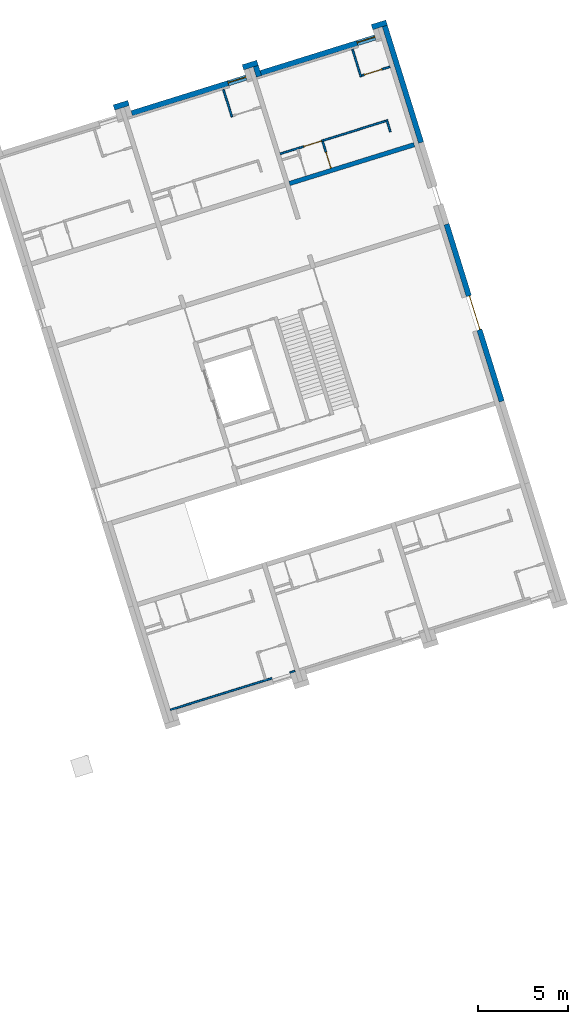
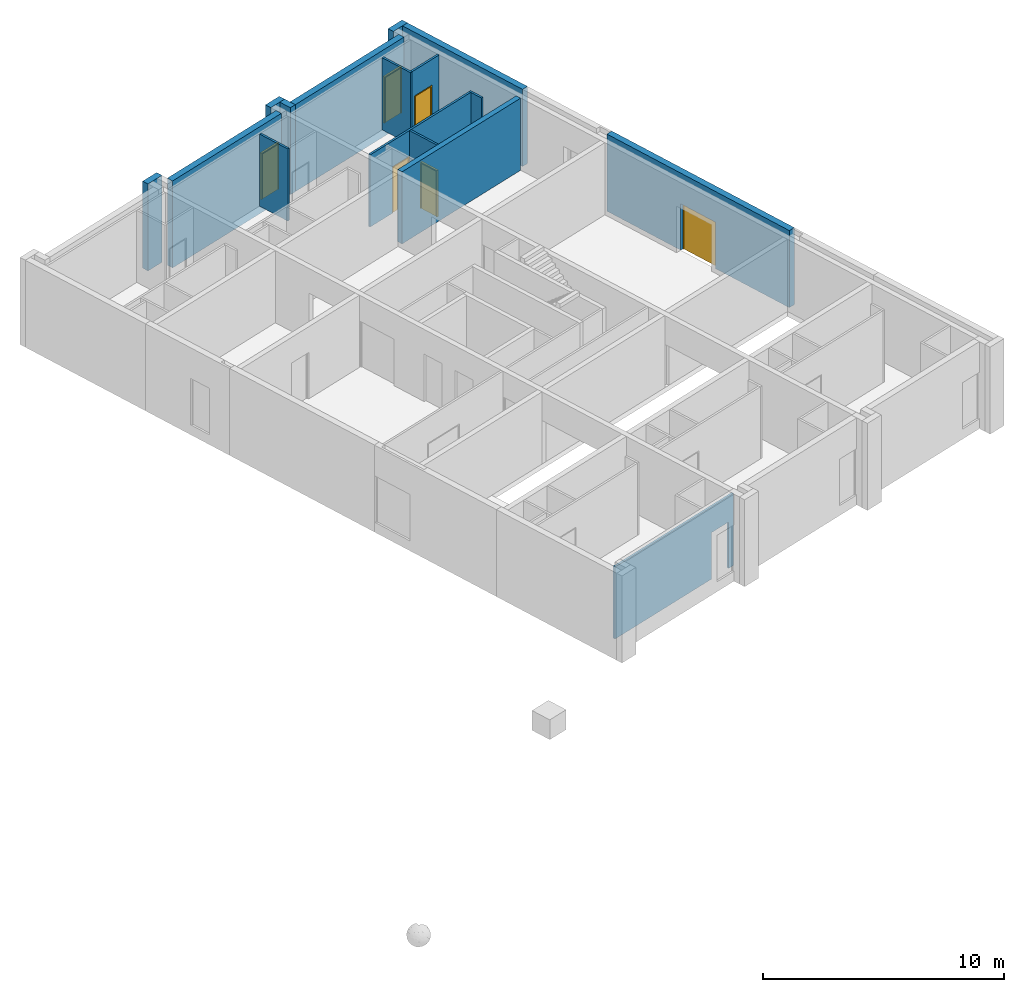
# One storey, part 6 of 10: 16 walls, 6 doors, 9 openings.
"""IFC4 building model written with IfcOpenShell, lengths in metres."""

from ifc_helpers import new_model, entity, si_unit, converted_unit, direction, frame, origin, place, context, subcontext, project, spatial, indexed_curve, outline, extrude, polygons, source, transform, mapped, material, constituent, constituent_set, type_object, type_shapes, element, fill, save


model = new_model("IFC4")

# Units and contexts
model_context = context("Model", 3, precision=1e-05, world=origin(), true_north=direction((6.12323399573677e-17, 1.0)))
body_context = subcontext(model_context, "Body", "Model", "MODEL_VIEW")
ifc_project = project(units=[si_unit("LENGTHUNIT", "METRE"), si_unit("AREAUNIT", "SQUARE_METRE"), si_unit("VOLUMEUNIT", "CUBIC_METRE"), converted_unit("PLANEANGLEUNIT", "DEGREE", entity("IfcPlaneAngleMeasure", 0.0174532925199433), si_unit("PLANEANGLEUNIT", "RADIAN"), dimensions=[0, 0, 0, 0, 0, 0, 0])], contexts=[model_context])

# Site, building, storey
site_placement = place(None, frame((13.1347999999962, 11.9886000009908, 0.0), z_axis=(0.0, 0.0, 1.0), x_axis=(0.954770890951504, 0.297342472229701, 0.0)))
site = spatial("IfcSite", under=ifc_project, at=site_placement, Name="Schiehaven", CompositionType="ELEMENT")
building_placement = place(site_placement, origin())
building = spatial("IfcBuilding", under=site, at=building_placement, Name="VORM huis", CompositionType="ELEMENT")
storey_placement = place(building_placement, origin())
storey = spatial("IfcBuildingStorey", under=building, at=storey_placement, Name="00 begane grond", CompositionType="ELEMENT", Elevation=0.0)

# Wall, opening
ifc_material_1 = material(Name="ntb_ntb_ntb", Category="Miscellaneous")
wall_type_1 = type_object("IfcWallType", Name="Basic Wall:21_WA_gevel_binnenspouwwand 100mm_gen", PredefinedType="STANDARD")
wall_1_placement = place(storey_placement, frame((5.12500000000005, 1.02500000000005, 0.0)))
wall_1 = element("IfcWall", 1, at=wall_1_placement, inside=storey, type_object=wall_type_1, material=ifc_material_1, Name="Binnenspouwblad", ObjectType="Wand", PredefinedType="NOTDEFINED", context=body_context, shape_type="Tessellation", body=[
    polygons([(7.24999999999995, -0.05, 0.0), (7.24999999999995, -0.05, 3.65), (-3.55859939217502e-16, -0.0499999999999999, 3.65), (-3.55859939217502e-16, -0.0499999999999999, 0.0), (5.90000000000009, -0.05, 0.0), (5.90000000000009, -0.0500000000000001, 2.34999999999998), (6.95000000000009, -0.05, 2.34999999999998), (6.95000000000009, -0.05, 0.0), (7.24999999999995, 0.05, 3.65), (7.24999999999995, 0.05, 0.0), (6.95000000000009, 0.05, 0.0), (6.95000000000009, 0.05, 2.34999999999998), (5.90000000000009, 0.0499999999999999, 2.34999999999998), (5.90000000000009, 0.05, 0.0), (-7.2554828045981e-16, 0.0500000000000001, 0.0), (-7.2554828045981e-16, 0.0500000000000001, 3.65)], [[[1, 2, 3, 4, 5, 6, 7, 8]], [[9, 10, 11, 12, 13, 14, 15, 16]], [[4, 15, 14, 5]], [[2, 1, 10, 9]], [[3, 2, 9, 16]], [[4, 3, 16, 15]], [[13, 6, 5, 14]], [[7, 12, 11, 8]], [[6, 13, 12, 7]], [[10, 1, 8, 11]]], closed=True),
])
opening_1_placement = place(wall_1_placement, origin())
element("IfcOpeningElement", 2, at=opening_1_placement, cuts=wall_1, Name="Woningtoegangsdeur", PredefinedType="OPENING", context=body_context, shape_type="SweptSolid", body=[
    extrude(outline(indexed_curve([(-0.525000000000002, -1.17499999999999), (0.525, -1.17499999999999), (0.525, 1.17499999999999), (-0.525000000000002, 1.17499999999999), (-0.525000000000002, -1.17499999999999)], self_intersect=False)), frame((6.4250000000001, -1.574, 1.17499999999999), z_axis=(0.0, 1.0, 0.0), x_axis=(1.0, 0.0, 0.0)), (0.0, 0.0, 1.0), 3.048),
])

# Wall
wall_type_2 = type_object("IfcWallType", Name="Basic Wall: 300mm_gen", PredefinedType="STANDARD")
wall_2_placement = place(storey_placement, frame((27.7750000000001, 33.725, 0.0), z_axis=(0.0, 0.0, 1.0), x_axis=(0.0, -1.0, 0.0)))
element("IfcWall", 3, at=wall_2_placement, inside=storey, type_object=wall_type_2, material=ifc_material_1, Name="Gevelwand", ObjectType="Wand", PredefinedType="NOTDEFINED", context=body_context, shape_type="SweptSolid", body=[
    extrude(outline(indexed_curve([(6.77500000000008, 0.15), (-2.81467268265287e-16, 0.150000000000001), (2.81467268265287e-16, -0.150000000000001), (6.77500000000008, -0.150000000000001), (6.77500000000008, 0.15)], self_intersect=False)), origin(), (0.0, 0.0, 1.0), 3.9),
])

# Wall, openings, door
wall_3_placement = place(storey_placement, frame((27.7750000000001, 22.2, 0.0), z_axis=(0.0, 0.0, 1.0), x_axis=(0.0, -1.0, 0.0)))
wall_3 = element("IfcWall", 4, at=wall_3_placement, inside=storey, type_object=wall_type_2, material=ifc_material_1, Name="Gevelwand", ObjectType="Wand", PredefinedType="NOTDEFINED", context=body_context, shape_type="Tessellation", body=[
    polygons([(6.13249999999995, -0.15, 2.34999999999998), (6.13249999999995, -0.15, 0.0), (10.295, -0.150000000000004, 0.0), (10.295, -0.150000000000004, 3.9), (0.0, -0.15, 3.9), (0.0, -0.15, 0.0), (4.16749999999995, -0.149999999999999, 0.0), (4.16749999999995, -0.149999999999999, 2.34999999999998), (10.295, 0.149999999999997, 0.0), (6.13249999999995, 0.150000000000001, 0.0), (6.13249999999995, 0.150000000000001, 2.34999999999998), (4.16749999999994, 0.150000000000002, 2.34999999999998), (4.16749999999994, 0.150000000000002, 0.0), (-4.33146851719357e-15, 0.150000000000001, 0.0), (-4.33146851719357e-15, 0.150000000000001, 3.9), (10.295, 0.149999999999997, 3.9)], [[[1, 2, 3, 4, 5, 6, 7, 8]], [[9, 10, 11, 12, 13, 14, 15, 16]], [[7, 6, 14, 13]], [[4, 3, 9, 16]], [[5, 4, 16, 15]], [[6, 5, 15, 14]], [[12, 11, 1, 8]], [[11, 10, 2, 1]], [[13, 12, 8, 7]], [[3, 2, 10, 9]]], closed=True),
])
opening_2_placement = place(wall_3_placement, frame((4.16749999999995, -0.150000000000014, 0.0)))
opening_2 = element("IfcOpeningElement", 5, at=opening_2_placement, cuts=wall_3, Name="Vluchtdeur", PredefinedType="OPENING", context=body_context, shape_type="SweptSolid", body=[
    extrude(outline(indexed_curve([(2.34999999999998, 0.0), (2.34999999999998, 1.965), (0.0, 1.965), (0.0, 0.0), (2.34999999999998, 0.0)], self_intersect=False)), frame((0.0, 0.0, 0.0), z_axis=(0.0, 1.0, 0.0), x_axis=(0.0, 0.0, 1.0)), (0.0, 0.0, 1.0), 0.3),
])
opening_3_placement = place(wall_3_placement, frame((22.2, -27.7750000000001, 0.0), z_axis=(0.0, 0.0, 1.0), x_axis=(0.0, 1.0, 0.0)))
element("IfcOpeningElement", 6, at=opening_3_placement, cuts=wall_3, Name="Vluchtdeur", PredefinedType="OPENING", context=body_context, shape_type="SweptSolid", body=[
    extrude(outline(indexed_curve([(-0.982500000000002, -1.17499999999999), (0.982500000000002, -1.17499999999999), (0.9825, 1.17499999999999), (-0.982500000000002, 1.17499999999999), (-0.982500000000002, -1.17499999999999)], self_intersect=False)), frame((26.1010000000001, 17.05, 1.17499999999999), z_axis=(1.0, 0.0, 0.0), x_axis=(0.0, -1.0, 0.0)), (0.0, 0.0, 1.0), 3.048),
])
ifc_material_2 = material(Name="PD_a_buitenwandopeningen", Category="Miscellaneous")
ifc_constituent_1 = constituent(ifc_material_2, Name="PD_a_buitenwandopeningen", Category="Miscellaneous")
ifc_material_3 = material(Name="metaal_aluminium_ntb", Category="Miscellaneous")
ifc_constituent_2 = constituent(ifc_material_3, Name="metaal_aluminium_ntb", Category="Miscellaneous")
ifc_constituent_set_1 = constituent_set(constituents=[ifc_constituent_1, ifc_constituent_2])
door_type_1 = type_object("IfcDoorType", Name="31_DO_buitendeur dubbel:buitendeur zelfsluitend 30min", OperationType="NOTDEFINED", PredefinedType="DOOR")
shared_shape_1 = source(origin(), body_context, "Body", "SweptSolid", [
    extrude(outline(indexed_curve([(0.932499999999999, -1.16249999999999), (0.982500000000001, -1.16249999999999), (0.982500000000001, 1.18749999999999), (-0.982500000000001, 1.18749999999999), (-0.982500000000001, -1.16249999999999), (-0.932499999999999, -1.16249999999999), (-0.9325, 1.13749999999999), (0.932499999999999, 1.13749999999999), (0.932499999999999, -1.16249999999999)], self_intersect=False)), frame((0.982500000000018, 0.230000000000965, 1.16249999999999), z_axis=(0.0, -1.0, 0.0), x_axis=(1.0, 0.0, 0.0)), (0.0, 0.0, 1.0), 0.1),
    extrude(outline(indexed_curve([(-0.466249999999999, -0.025), (0.466249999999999, -0.025), (0.466249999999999, 0.025), (-0.466249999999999, 0.025), (-0.466249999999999, -0.025)], self_intersect=False)), frame((0.516250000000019, 0.180000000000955, 0.0)), (0.0, 0.0, 1.0), 2.29999999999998),
    extrude(outline(indexed_curve([(-0.46625, -0.025), (0.46625, -0.025), (0.46625, 0.025), (-0.46625, 0.025), (-0.46625, -0.025)], self_intersect=False)), frame((1.44875000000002, 0.180000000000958, 0.0)), (0.0, 0.0, 1.0), 2.29999999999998),
])
door_1_placement = place(opening_2_placement, origin())
door_1 = element("IfcDoor", 7, at=door_1_placement, inside=storey, type_object=door_type_1, material=ifc_constituent_set_1, Name="Vluchtdeur", ObjectType="Deur", OperationType="NOTDEFINED", OverallHeight=2.34999999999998, OverallWidth=1.965, PredefinedType="DOOR", context=body_context, shape_type="MappedRepresentation", body=[
    mapped(shared_shape_1, transform((0.0, 0.0, 0.0), scale=1.0)),
])
fill(opening_2, door_1)

# Wall
wall_4_placement = place(storey_placement, frame((12.9250000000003, 33.875, -0.5), z_axis=(0.0, 0.0, 1.0), x_axis=(-1.0, 0.0, 0.0)))
element("IfcWall", 8, at=wall_4_placement, inside=storey, type_object=wall_type_2, material=ifc_material_1, Name="Gevelwand", ObjectType="Wand", PredefinedType="NOTDEFINED", context=body_context, shape_type="SweptSolid", body=[
    extrude(outline(indexed_curve([(0.850000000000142, 0.150000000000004), (-6.58211410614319e-16, 0.150000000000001), (6.58211410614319e-16, -0.150000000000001), (0.850000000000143, -0.149999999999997), (0.850000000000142, 0.150000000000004)], self_intersect=False)), origin(), (0.0, 0.0, 1.0), 4.4),
])

# Wall, opening, door
wall_5_placement = place(storey_placement, frame((19.5750000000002, 33.275, -0.5), z_axis=(0.0, 0.0, 1.0), x_axis=(-1.0, 0.0, 0.0)))
wall_5 = element("IfcWall", 9, at=wall_5_placement, inside=storey, type_object=wall_type_2, material=ifc_material_1, Name="Gevelwand", ObjectType="Wand", PredefinedType="NOTDEFINED", context=body_context, shape_type="Tessellation", body=[
    polygons([(9.4318561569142e-16, -0.150000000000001, 0.0), (6.64999999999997, -0.150000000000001, 0.0), (6.64999999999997, -0.150000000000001, 4.4), (9.4318561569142e-16, -0.150000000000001, 4.4), (9.4318561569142e-16, -0.150000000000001, 2.84999999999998), (1.04999999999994, -0.149999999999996, 2.84999999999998), (1.04999999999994, -0.149999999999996, 0.5), (9.4318561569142e-16, -0.150000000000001, 0.5), (6.64999999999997, 0.150000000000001, 0.0), (-3.71874453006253e-17, 0.150000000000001, 0.0), (-3.71874453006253e-17, 0.150000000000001, 0.5), (1.04999999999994, 0.150000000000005, 0.5), (1.04999999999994, 0.150000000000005, 2.84999999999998), (-3.71874453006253e-17, 0.150000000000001, 2.84999999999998), (-3.71874453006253e-17, 0.150000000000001, 4.4), (6.64999999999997, 0.150000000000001, 4.4)], [[[1, 2, 3, 4, 5, 6, 7, 8]], [[9, 10, 11, 12, 13, 14, 15, 16]], [[2, 1, 10, 9]], [[4, 3, 16, 15]], [[10, 1, 8, 11]], [[3, 2, 9, 16]], [[6, 13, 12, 7]], [[7, 12, 11, 8]], [[13, 6, 5, 14]], [[4, 15, 14, 5]]], closed=True),
])
opening_4_placement = place(wall_5_placement, frame((1.04999999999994, 0.149999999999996, 0.5)))
opening_4 = element("IfcOpeningElement", 10, at=opening_4_placement, cuts=wall_5, Name="Woningtoegangsdeur", PredefinedType="OPENING", context=body_context, shape_type="SweptSolid", body=[
    extrude(outline(indexed_curve([(2.34999999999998, 0.0), (2.34999999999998, 1.05), (0.0, 1.05), (0.0, 0.0), (2.34999999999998, 0.0)], self_intersect=False)), frame((0.0, 0.0, 0.0), z_axis=(0.0, -1.0, 0.0), x_axis=(0.0, 0.0, 1.0)), (0.0, 0.0, 1.0), 0.3),
])
ifc_constituent_3 = constituent(ifc_material_2, Name="PD_a_buitenwandopeningen", Category="Miscellaneous")
ifc_constituent_4 = constituent(ifc_material_3, Name="metaal_aluminium_ntb", Category="Miscellaneous")
ifc_constituent_set_2 = constituent_set(constituents=[ifc_constituent_3, ifc_constituent_4])
door_type_2 = type_object("IfcDoorType", Name="31_DO_buitendeur enkel:woningtoegangsdeur", OperationType="REVOLVING", PredefinedType="DOOR")
shared_shape_2 = source(origin(), body_context, "Body", "SweptSolid", [
    extrude(outline(indexed_curve([(0.475, -1.16249999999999), (0.525000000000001, -1.16249999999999), (0.525000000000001, 1.18749999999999), (-0.525000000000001, 1.18749999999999), (-0.525000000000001, -1.16249999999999), (-0.475, -1.16249999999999), (-0.475, 1.13749999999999), (0.475, 1.13749999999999), (0.475, -1.16249999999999)], self_intersect=False)), frame((0.525000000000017, 0.230000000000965, 1.16249999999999), z_axis=(0.0, -1.0, 0.0), x_axis=(1.0, 0.0, 0.0)), (0.0, 0.0, 1.0), 0.1),
    extrude(outline(indexed_curve([(-0.475, -0.025), (0.475, -0.025), (0.475, 0.025), (-0.475, 0.025), (-0.475, -0.025)], self_intersect=False)), frame((0.525000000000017, 0.180000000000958, 0.0)), (0.0, 0.0, 1.0), 2.29999999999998),
])
door_2_placement = place(opening_4_placement, frame((0.0, 0.0, 0.0), z_axis=(0.0, 0.0, 1.0), x_axis=(-1.0, 0.0, 0.0)))
door_2 = element("IfcDoor", 11, at=door_2_placement, inside=storey, type_object=door_type_2, material=ifc_constituent_set_2, Name="Woningtoegangsdeur", ObjectType="Deur", OperationType="REVOLVING", OverallHeight=2.34999999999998, OverallWidth=1.05, PredefinedType="DOOR", context=body_context, shape_type="MappedRepresentation", body=[
    mapped(shared_shape_2, transform((0.0, 0.0, 0.0), scale=1.0)),
])
fill(opening_4, door_2)

# Walls
wall_6_placement = place(storey_placement, frame((20.4250000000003, 33.875, -0.5), z_axis=(0.0, 0.0, 1.0), x_axis=(-1.0, 0.0, 0.0)))
element("IfcWall", 12, at=wall_6_placement, inside=storey, type_object=wall_type_2, material=ifc_material_1, Name="Gevelwand", ObjectType="Wand", PredefinedType="NOTDEFINED", context=body_context, shape_type="SweptSolid", body=[
    extrude(outline(indexed_curve([(0.850000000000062, 0.150000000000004), (-6.58211410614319e-16, 0.150000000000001), (6.58211410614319e-16, -0.150000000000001), (0.850000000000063, -0.149999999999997), (0.850000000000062, 0.150000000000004)], self_intersect=False)), origin(), (0.0, 0.0, 1.0), 4.4),
])
wall_7_placement = place(storey_placement, frame((20.2750000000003, 33.125, -0.5), z_axis=(0.0, 0.0, 1.0), x_axis=(0.0, 1.0, 0.0)))
element("IfcWall", 13, at=wall_7_placement, inside=storey, type_object=wall_type_2, material=ifc_material_1, Name="Gevelwand", ObjectType="Wand", PredefinedType="NOTDEFINED", context=body_context, shape_type="SweptSolid", body=[
    extrude(outline(indexed_curve([(0.60000000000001, 0.15), (-9.66298299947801e-16, 0.150000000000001), (9.66298299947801e-16, -0.150000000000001), (0.600000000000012, -0.150000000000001), (0.60000000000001, 0.15)], self_intersect=False)), origin(), (0.0, 0.0, 1.0), 4.4),
])

# Wall, opening, door
wall_8_placement = place(storey_placement, frame((27.0750000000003, 33.275, -0.5), z_axis=(0.0, 0.0, 1.0), x_axis=(-1.0, 0.0, 0.0)))
wall_8 = element("IfcWall", 14, at=wall_8_placement, inside=storey, type_object=wall_type_2, material=ifc_material_1, Name="Gevelwand", ObjectType="Wand", PredefinedType="NOTDEFINED", context=body_context, shape_type="Tessellation", body=[
    polygons([(9.43185615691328e-16, -0.150000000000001, 0.0), (6.64999999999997, -0.150000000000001, 0.0), (6.64999999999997, -0.150000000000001, 4.4), (9.43185615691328e-16, -0.150000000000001, 4.4), (9.43185615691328e-16, -0.150000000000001, 2.84999999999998), (1.05, -0.150000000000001, 2.84999999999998), (1.05, -0.150000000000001, 0.5), (9.43185615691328e-16, -0.150000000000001, 0.5), (6.64999999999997, 0.150000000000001, 0.0), (-3.71874453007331e-17, 0.150000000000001, 0.0), (-3.71874453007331e-17, 0.150000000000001, 0.5), (1.05, 0.150000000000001, 0.5), (1.05, 0.150000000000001, 2.84999999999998), (-3.71874453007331e-17, 0.150000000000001, 2.84999999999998), (-3.71874453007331e-17, 0.150000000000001, 4.4), (6.64999999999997, 0.150000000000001, 4.4)], [[[1, 2, 3, 4, 5, 6, 7, 8]], [[9, 10, 11, 12, 13, 14, 15, 16]], [[2, 1, 10, 9]], [[4, 3, 16, 15]], [[10, 1, 8, 11]], [[3, 2, 9, 16]], [[6, 13, 12, 7]], [[7, 12, 11, 8]], [[13, 6, 5, 14]], [[4, 15, 14, 5]]], closed=True),
])
opening_5_placement = place(wall_8_placement, frame((1.05, 0.150000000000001, 0.5)))
opening_5 = element("IfcOpeningElement", 15, at=opening_5_placement, cuts=wall_8, Name="Woningtoegangsdeur", PredefinedType="OPENING", context=body_context, shape_type="SweptSolid", body=[
    extrude(outline(indexed_curve([(2.34999999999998, 0.0), (2.34999999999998, 1.05), (0.0, 1.05), (0.0, 0.0), (2.34999999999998, 0.0)], self_intersect=False)), frame((0.0, 0.0, 0.0), z_axis=(0.0, -1.0, 0.0), x_axis=(0.0, 0.0, 1.0)), (0.0, 0.0, 1.0), 0.3),
])
ifc_constituent_5 = constituent(ifc_material_2, Name="PD_a_buitenwandopeningen", Category="Miscellaneous")
ifc_constituent_6 = constituent(ifc_material_3, Name="metaal_aluminium_ntb", Category="Miscellaneous")
ifc_constituent_set_3 = constituent_set(constituents=[ifc_constituent_5, ifc_constituent_6])
door_3_placement = place(opening_5_placement, frame((0.0, 0.0, 0.0), z_axis=(0.0, 0.0, 1.0), x_axis=(-1.0, 0.0, 0.0)))
door_3 = element("IfcDoor", 16, at=door_3_placement, inside=storey, type_object=door_type_2, material=ifc_constituent_set_3, Name="Woningtoegangsdeur", ObjectType="Deur", OperationType="REVOLVING", OverallHeight=2.34999999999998, OverallWidth=1.05, PredefinedType="DOOR", context=body_context, shape_type="MappedRepresentation", body=[
    mapped(shared_shape_2, transform((0.0, 0.0, 0.0), scale=1.0)),
])
fill(opening_5, door_3)

# Walls
wall_9_placement = place(storey_placement, frame((27.9250000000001, 33.875, -0.5), z_axis=(0.0, 0.0, 1.0), x_axis=(-1.0, 0.0, 0.0)))
element("IfcWall", 17, at=wall_9_placement, inside=storey, type_object=wall_type_2, material=ifc_material_1, Name="Gevelwand", ObjectType="Wand", PredefinedType="NOTDEFINED", context=body_context, shape_type="SweptSolid", body=[
    extrude(outline(indexed_curve([(0.849999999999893, 0.150000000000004), (-6.58211410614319e-16, 0.150000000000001), (6.58211410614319e-16, -0.150000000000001), (0.849999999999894, -0.149999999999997), (0.849999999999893, 0.150000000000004)], self_intersect=False)), origin(), (0.0, 0.0, 1.0), 4.4),
])
wall_type_3 = type_object("IfcWallType", Name="Basic Wall:22_WA_afbouw_binnenwand 250mm_gen", PredefinedType="STANDARD")
wall_10_placement = place(storey_placement, frame((20.1250000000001, 26.9499999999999, 0.0)))
element("IfcWall", 18, at=wall_10_placement, inside=storey, type_object=wall_type_3, material=ifc_material_1, Name="Binnenwand", ObjectType="Wand", PredefinedType="NOTDEFINED", context=body_context, shape_type="SweptSolid", body=[
    extrude(outline(indexed_curve([(7.24999999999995, 0.124999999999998), (-6.13193370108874e-16, 0.125000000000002), (6.13193370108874e-16, -0.125000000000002), (7.24999999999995, -0.125000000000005), (7.24999999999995, 0.124999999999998)], self_intersect=False)), origin(), (0.0, 0.0, 1.0), 3.65),
])
wall_type_4 = type_object("IfcWallType", Name="Basic Wall:22_WA_afbouw_binnenwand 100mm_gen", PredefinedType="STANDARD")
wall_11_placement = place(storey_placement, frame((18.1750000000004, 31.425, 0.0), z_axis=(0.0, 0.0, 1.0), x_axis=(0.0, 1.0, 0.0)))
element("IfcWall", 19, at=wall_11_placement, inside=storey, type_object=wall_type_4, material=ifc_material_1, Name="Binnenwand", ObjectType="Wand", PredefinedType="NOTDEFINED", context=body_context, shape_type="SweptSolid", body=[
    extrude(outline(indexed_curve([(1.6, 0.0499999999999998), (5.83803322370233e-17, 0.0499999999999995), (-5.83803322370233e-17, -0.0499999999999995), (1.6, -0.0499999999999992), (1.6, 0.0499999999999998)], self_intersect=False)), origin(), (0.0, 0.0, 1.0), 3.65),
])

# Wall, opening, door
wall_12_placement = place(storey_placement, frame((22.5750000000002, 28.625, 0.0), z_axis=(0.0, 0.0, 1.0), x_axis=(0.0, -1.0, 0.0)))
wall_12 = element("IfcWall", 20, at=wall_12_placement, inside=storey, type_object=wall_type_4, material=ifc_material_1, Name="Binnenwand", ObjectType="Wand", PredefinedType="NOTDEFINED", context=body_context, shape_type="Tessellation", body=[
    polygons([(1.54999999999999, -0.0499999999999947, 3.65), (0.0, -0.0499999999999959, 3.65), (0.0, -0.0499999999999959, 2.34999999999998), (0.0, -0.0499999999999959, 0.0), (0.599999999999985, -0.0499999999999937, 0.0), (0.599999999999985, -0.0499999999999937, 2.34999999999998), (1.54999999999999, -0.0499999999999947, 2.34999999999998), (0.0, 0.050000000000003, 3.65), (1.54999999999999, 0.0500000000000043, 3.65), (1.54999999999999, 0.0500000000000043, 2.34999999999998), (0.599999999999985, 0.0500000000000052, 2.34999999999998), (0.599999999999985, 0.0500000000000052, 0.0), (0.0, 0.050000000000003, 0.0)], [[[1, 2, 3, 4, 5, 6, 7]], [[8, 9, 10, 11, 12, 13]], [[4, 13, 12, 5]], [[9, 1, 7, 10]], [[2, 1, 9, 8]], [[11, 6, 5, 12]], [[6, 11, 10, 7]], [[4, 3, 2, 8, 13]]], closed=True),
])
opening_6_placement = place(wall_12_placement, frame((1.54999999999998, 0.0499999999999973, 0.0)))
opening_6 = element("IfcOpeningElement", 21, at=opening_6_placement, cuts=wall_12, Name="Binnendeur", PredefinedType="OPENING", context=body_context, shape_type="SweptSolid", body=[
    extrude(outline(indexed_curve([(2.34999999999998, 2.70716782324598e-16), (2.34999999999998, 0.950000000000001), (0.0, 0.950000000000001), (0.0, 2.70716782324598e-16), (2.34999999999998, 2.70716782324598e-16)], self_intersect=False)), frame((0.0, 0.0, 0.0), z_axis=(0.0, -1.0, 0.0), x_axis=(0.0, 0.0, 1.0)), (0.0, 0.0, 1.0), 0.1),
])
ifc_material_4 = material(Name="PD_a_binnenwandopeningen", Category="Miscellaneous")
ifc_constituent_7 = constituent(ifc_material_4, Name="PD_a_binnenwandopeningen", Category="Miscellaneous")
ifc_constituent_8 = constituent(ifc_material_3, Name="metaal_aluminium_ntb", Category="Miscellaneous")
ifc_constituent_set_4 = constituent_set(constituents=[ifc_constituent_7, ifc_constituent_8])
door_type_3 = type_object("IfcDoorType", Name="32_DO_binnendeur enkel:kastdeur", OperationType="REVOLVING", PredefinedType="DOOR")
shared_shape_3 = source(origin(), body_context, "Body", "SweptSolid", [
    extrude(outline(indexed_curve([(0.425, -1.16249999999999), (0.475000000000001, -1.16249999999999), (0.475000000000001, 1.18749999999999), (-0.475000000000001, 1.18749999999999), (-0.475000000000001, -1.16249999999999), (-0.425, -1.16249999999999), (-0.425, 1.13749999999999), (0.425, 1.13749999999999), (0.425, -1.16249999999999)], self_intersect=False)), frame((0.475000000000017, 0.100000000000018, 1.16249999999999), z_axis=(0.0, -1.0, 0.0), x_axis=(1.0, 0.0, 0.0)), (0.0, 0.0, 1.0), 0.1),
    extrude(outline(indexed_curve([(-0.425, -0.025), (0.425, -0.025), (0.425, 0.025), (-0.425, 0.025), (-0.425, -0.025)], self_intersect=False)), frame((0.475000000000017, 0.0499999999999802, 0.0)), (0.0, 0.0, 1.0), 2.29999999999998),
])
door_4_placement = place(opening_6_placement, frame((0.0, 0.0, 0.0), z_axis=(0.0, 0.0, 1.0), x_axis=(-1.0, 0.0, 0.0)))
door_4 = element("IfcDoor", 22, at=door_4_placement, inside=storey, type_object=door_type_3, material=ifc_constituent_set_4, Name="Binnendeur", ObjectType="Deur", OperationType="REVOLVING", OverallHeight=2.34999999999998, OverallWidth=0.950000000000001, PredefinedType="DOOR", context=body_context, shape_type="MappedRepresentation", body=[
    mapped(shared_shape_3, transform((0.0, 0.0, 0.0), scale=1.0)),
])
fill(opening_6, door_4)

# Wall, openings, door
wall_13_placement = place(storey_placement, frame((26.2750000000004, 28.6749999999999, 0.0), z_axis=(0.0, 0.0, 1.0), x_axis=(-1.0, 0.0, 0.0)))
wall_13 = element("IfcWall", 23, at=wall_13_placement, inside=storey, type_object=wall_type_4, material=ifc_material_1, Name="Binnenwand", ObjectType="Wand", PredefinedType="NOTDEFINED", context=body_context, shape_type="Tessellation", body=[
    polygons([(-1.06033439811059e-15, -0.0499999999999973, 0.0), (3.75000000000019, -0.0499999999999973, 0.0), (3.75000000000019, -0.0499999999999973, 2.34999999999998), (4.8000000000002, -0.0499999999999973, 2.34999999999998), (4.8000000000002, -0.0499999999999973, 0.0), (6.15000000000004, -0.049999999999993, 0.0), (6.15000000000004, -0.049999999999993, 3.65), (-1.06033439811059e-15, -0.0499999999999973, 3.65), (3.75000000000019, 0.0500000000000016, 2.34999999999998), (3.75000000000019, 0.0500000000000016, 0.0), (3.65000000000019, 0.0500000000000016, 0.0), (-1.41854122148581e-15, 0.0500000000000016, 0.0), (-1.41854122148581e-15, 0.0500000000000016, 3.65), (3.65000000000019, 0.0500000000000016, 3.65), (3.75000000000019, 0.0500000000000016, 3.65), (5.10000000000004, 0.0500000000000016, 3.65), (5.20000000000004, 0.050000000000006, 3.65), (6.15000000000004, 0.0500000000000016, 3.65), (6.15000000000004, 0.0500000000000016, 0.0), (5.20000000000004, 0.050000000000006, 0.0), (5.10000000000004, 0.0500000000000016, 0.0), (4.8000000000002, 0.0500000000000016, 0.0), (4.8000000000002, 0.0500000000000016, 2.34999999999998)], [[[1, 2, 3, 4, 5, 6, 7, 8]], [[9, 10, 11, 12, 13, 14, 15, 16, 17, 18, 19, 20, 21, 22, 23]], [[12, 11, 10, 2, 1]], [[7, 6, 19, 18]], [[8, 7, 18, 17, 16, 15, 14, 13]], [[5, 4, 23, 22]], [[3, 2, 10, 9]], [[4, 3, 9, 23]], [[1, 8, 13, 12]], [[22, 21, 20, 19, 6, 5]]], closed=True),
])
opening_7_placement = place(wall_13_placement, frame((4.8000000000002, 0.0499999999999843, 0.0)))
opening_7 = element("IfcOpeningElement", 24, at=opening_7_placement, cuts=wall_13, Name="Binnendeur", PredefinedType="OPENING", context=body_context, shape_type="SweptSolid", body=[
    extrude(outline(indexed_curve([(2.34999999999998, -3.03039370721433e-32), (2.34999999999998, 1.05), (0.0, 1.05), (0.0, -3.03039370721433e-32), (2.34999999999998, -3.03039370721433e-32)], self_intersect=False)), frame((0.0, 0.0, 0.0), z_axis=(0.0, -1.0, 0.0), x_axis=(0.0, 0.0, 1.0)), (0.0, 0.0, 1.0), 0.1),
])
opening_8_placement = place(wall_13_placement, frame((26.2750000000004, 28.6749999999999, 0.0), z_axis=(0.0, 0.0, 1.0), x_axis=(-1.0, 0.0, 0.0)))
element("IfcOpeningElement", 25, at=opening_8_placement, cuts=wall_13, Name="Binnendeur", PredefinedType="OPENING", context=body_context, shape_type="SweptSolid", body=[
    extrude(outline(indexed_curve([(-1.17499999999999, -0.524999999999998), (1.17499999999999, -0.525000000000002), (1.17499999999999, 0.525000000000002), (-1.17499999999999, 0.525000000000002), (-1.17499999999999, -0.524999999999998)], self_intersect=False)), frame((22.0, 30.149, 1.17499999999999), z_axis=(0.0, -1.0, 0.0), x_axis=(0.0, 0.0, -1.0)), (0.0, 0.0, 1.0), 3.048),
])
ifc_constituent_9 = constituent(ifc_material_4, Name="PD_a_binnenwandopeningen", Category="Miscellaneous")
ifc_constituent_10 = constituent(ifc_material_3, Name="metaal_aluminium_ntb", Category="Miscellaneous")
ifc_constituent_set_5 = constituent_set(constituents=[ifc_constituent_9, ifc_constituent_10])
door_type_4 = type_object("IfcDoorType", Name="32_DO_binnendeur enkel:binnendeur", OperationType="REVOLVING", PredefinedType="DOOR")
shared_shape_4 = source(origin(), body_context, "Body", "SweptSolid", [
    extrude(outline(indexed_curve([(0.475, -1.16249999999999), (0.525, -1.16249999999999), (0.525, 1.18749999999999), (-0.525, 1.18749999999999), (-0.525, -1.16249999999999), (-0.475, -1.16249999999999), (-0.475, 1.13749999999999), (0.475, 1.13749999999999), (0.475, -1.16249999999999)], self_intersect=False)), frame((0.525000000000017, 0.100000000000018, 1.16249999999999), z_axis=(0.0, -1.0, 0.0), x_axis=(1.0, 0.0, 0.0)), (0.0, 0.0, 1.0), 0.1),
    extrude(outline(indexed_curve([(-0.475, -0.025), (0.475, -0.025), (0.475, 0.025), (-0.475, 0.025), (-0.475, -0.025)], self_intersect=False)), frame((0.525000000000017, 0.0499999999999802, 0.0)), (0.0, 0.0, 1.0), 2.29999999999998),
])
door_5_placement = place(opening_7_placement, frame((0.0, 0.0, 0.0), z_axis=(0.0, 0.0, 1.0), x_axis=(-1.0, 0.0, 0.0)))
door_5 = element("IfcDoor", 26, at=door_5_placement, inside=storey, type_object=door_type_4, material=ifc_constituent_set_5, Name="Binnendeur", ObjectType="Deur", OperationType="REVOLVING", OverallHeight=2.34999999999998, OverallWidth=1.05, PredefinedType="DOOR", context=body_context, shape_type="MappedRepresentation", body=[
    mapped(shared_shape_4, transform((0.0, 0.0, 0.0), scale=1.0)),
])
fill(opening_7, door_5)

# Wall
wall_14_placement = place(storey_placement, frame((26.3250000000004, 28.0249999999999, 0.0), z_axis=(0.0, 0.0, 1.0), x_axis=(0.0, 1.0, 0.0)))
element("IfcWall", 27, at=wall_14_placement, inside=storey, type_object=wall_type_4, material=ifc_material_1, Name="Binnenwand", ObjectType="Wand", PredefinedType="NOTDEFINED", context=body_context, shape_type="SweptSolid", body=[
    extrude(outline(indexed_curve([(0.699999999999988, 0.0500000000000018), (-1.25084687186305e-17, 0.0500000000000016), (1.25084687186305e-17, -0.0500000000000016), (0.699999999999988, -0.0500000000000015), (0.699999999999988, 0.0500000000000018)], self_intersect=False)), origin(), (0.0, 0.0, 1.0), 3.65),
])

# Wall, opening, door
wall_15_placement = place(storey_placement, frame((27.3750000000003, 31.475, 0.0), z_axis=(0.0, 0.0, 1.0), x_axis=(-1.0, 0.0, 0.0)))
wall_15 = element("IfcWall", 28, at=wall_15_placement, inside=storey, type_object=wall_type_4, material=ifc_material_1, Name="Binnenwand", ObjectType="Wand", PredefinedType="NOTDEFINED", context=body_context, shape_type="Tessellation", body=[
    polygons([(1.49999999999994, -0.0500000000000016, 2.34999999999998), (1.49999999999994, -0.0500000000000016, 0.0), (1.64999999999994, -0.049999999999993, 0.0), (1.64999999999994, -0.049999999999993, 3.65), (-1.11745698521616e-15, -0.0499999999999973, 3.65), (-1.11745698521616e-15, -0.0499999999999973, 0.0), (0.44999999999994, -0.0499999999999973, 0.0), (0.44999999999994, -0.0499999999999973, 2.34999999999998), (1.64999999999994, 0.050000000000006, 0.0), (1.49999999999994, 0.0500000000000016, 0.0), (1.49999999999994, 0.0500000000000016, 2.34999999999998), (0.44999999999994, 0.050000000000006, 2.34999999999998), (0.44999999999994, 0.050000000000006, 0.0), (-8.1163695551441e-16, 0.050000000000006, 0.0), (-8.1163695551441e-16, 0.050000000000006, 3.65), (1.64999999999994, 0.050000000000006, 3.65)], [[[1, 2, 3, 4, 5, 6, 7, 8]], [[9, 10, 11, 12, 13, 14, 15, 16]], [[7, 6, 14, 13]], [[5, 4, 16, 15]], [[6, 5, 15, 14]], [[13, 12, 8, 7]], [[11, 10, 2, 1]], [[12, 11, 1, 8]], [[4, 3, 9, 16]], [[3, 2, 10, 9]]], closed=True),
])
opening_9_placement = place(wall_15_placement, frame((1.49999999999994, 0.0500000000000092, 0.0)))
opening_9 = element("IfcOpeningElement", 29, at=opening_9_placement, cuts=wall_15, Name="Binnendeur", PredefinedType="OPENING", context=body_context, shape_type="SweptSolid", body=[
    extrude(outline(indexed_curve([(2.34999999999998, 1.05), (0.0, 1.05), (0.0, 9.8313854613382e-30), (2.34999999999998, 9.8313854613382e-30), (2.34999999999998, 1.05)], self_intersect=False)), frame((0.0, 0.0, 0.0), z_axis=(0.0, -1.0, 0.0), x_axis=(0.0, 0.0, 1.0)), (0.0, 0.0, 1.0), 0.1),
])
ifc_constituent_11 = constituent(ifc_material_4, Name="PD_a_binnenwandopeningen", Category="Miscellaneous")
ifc_constituent_12 = constituent(ifc_material_3, Name="metaal_aluminium_ntb", Category="Miscellaneous")
ifc_constituent_set_6 = constituent_set(constituents=[ifc_constituent_11, ifc_constituent_12])
shared_shape_5 = source(origin(), body_context, "Body", "SweptSolid", [
    extrude(outline(indexed_curve([(-1.16249999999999, -0.525000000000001), (1.18749999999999, -0.525), (1.18749999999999, 0.525), (-1.16249999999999, 0.525), (-1.16249999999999, 0.475), (1.13749999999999, 0.475), (1.13749999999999, -0.475), (-1.16249999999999, -0.475), (-1.16249999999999, -0.525000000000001)], self_intersect=False)), frame((0.525000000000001, 0.0, 1.16249999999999), z_axis=(0.0, 1.0, 0.0), x_axis=(0.0, 0.0, 1.0)), (0.0, 0.0, 1.0), 0.1),
    extrude(outline(indexed_curve([(-0.025, -0.475), (0.025, -0.475), (0.025, 0.475), (-0.025, 0.475), (-0.025, -0.475)], self_intersect=False)), frame((0.525000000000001, 0.0499999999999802, 0.0), z_axis=(0.0, 0.0, 1.0), x_axis=(0.0, 1.0, 0.0)), (0.0, 0.0, 1.0), 2.29999999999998),
])
type_shapes(door_type_4, [shared_shape_5])
door_6_placement = place(opening_9_placement, frame((0.0, 0.0, 0.0), z_axis=(0.0, 0.0, 1.0), x_axis=(-1.0, 0.0, 0.0)))
door_6 = element("IfcDoor", 30, at=door_6_placement, inside=storey, type_object=door_type_4, material=ifc_constituent_set_6, Name="Binnendeur", ObjectType="Deur", OperationType="REVOLVING", OverallHeight=2.34999999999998, OverallWidth=1.05, PredefinedType="DOOR", context=body_context, shape_type="MappedRepresentation", body=[
    mapped(shared_shape_5, transform((0.0, 0.0, 0.0), scale=1.0)),
])
fill(opening_9, door_6)

# Wall
wall_16_placement = place(storey_placement, frame((25.6750000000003, 31.425, 0.0), z_axis=(0.0, 0.0, 1.0), x_axis=(0.0, 1.0, 0.0)))
element("IfcWall", 31, at=wall_16_placement, inside=storey, type_object=wall_type_4, material=ifc_material_1, Name="Binnenwand", ObjectType="Wand", PredefinedType="NOTDEFINED", context=body_context, shape_type="SweptSolid", body=[
    extrude(outline(indexed_curve([(1.6, 0.0500000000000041), (5.83803322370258e-17, 0.0500000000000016), (-5.83803322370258e-17, -0.0500000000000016), (1.6, -0.0499999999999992), (1.6, 0.0500000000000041)], self_intersect=False)), origin(), (0.0, 0.0, 1.0), 3.65),
])

save(model, "model.ifc")
